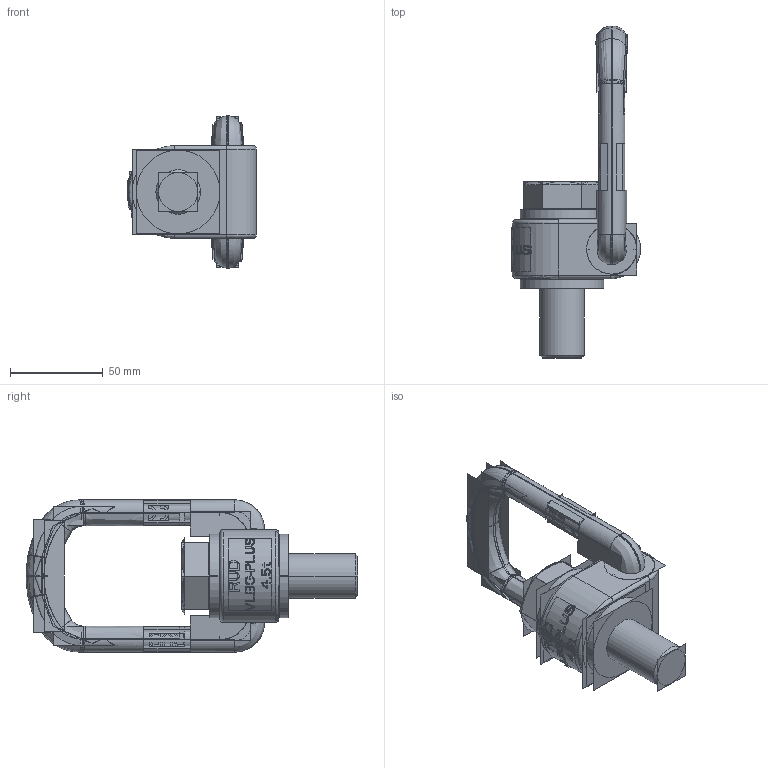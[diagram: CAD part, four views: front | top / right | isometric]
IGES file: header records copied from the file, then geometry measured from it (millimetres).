
Start section:  PTC IGES file: VLBG-PLUS-M24-4,5t-8504659-M35336-P-1.igs
Bounding box: 69.5 x 178.85 x 82.07 mm (x, y, z)
Volume: 193304.2 mm3; surface area: 254942.7 mm2
Topology: 3 solids, 3 shells, 1834 faces, 8890 edges, 10738 vertices
Faces by surface type: bspline 1620, revolution 214
